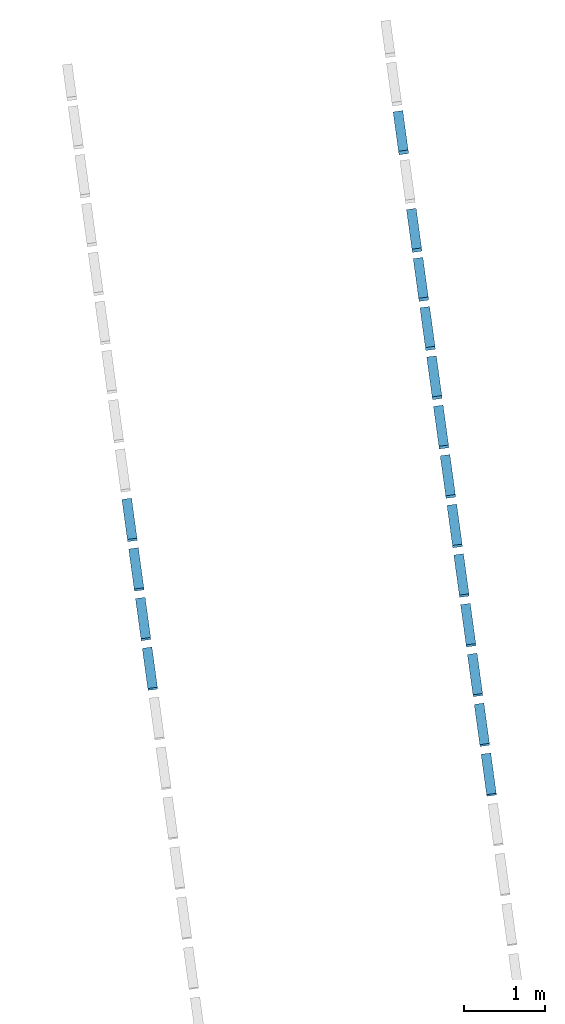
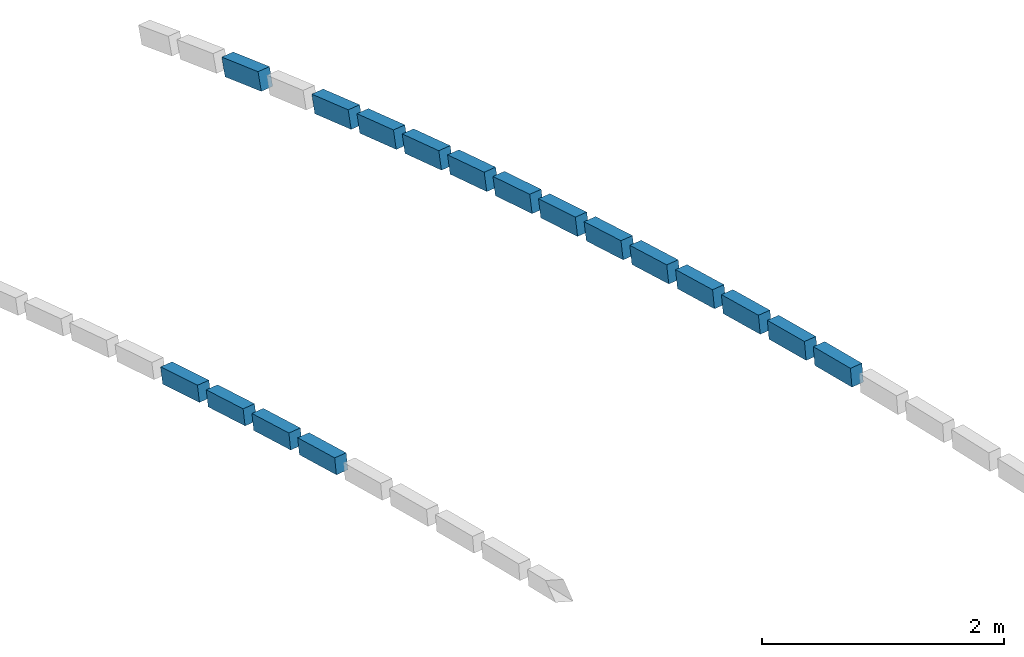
# One storey, part 5 of 6: 17 beams.
"""IFC2X3 building model written with IfcOpenShell, lengths in metres."""

from ifc_helpers import new_model, entity, si_unit, converted_unit, derived_unit, money_unit, direction, frame, frame_2d, origin_with_axes, place, context, subcontext, project, spatial, rectangle, extrude, boolean, faceted_brep, material, type_object, element, save


model = new_model("IFC2X3")

# Units and contexts
model_context = context("Model", 3, precision=1e-05, world=origin_with_axes(), true_north=direction((0.0, 1.0)))
body_context = subcontext(model_context, "Body", "Model", "MODEL_VIEW")
ifc_project = project(units=[si_unit("LENGTHUNIT", "METRE"), si_unit("AREAUNIT", "SQUARE_METRE"), si_unit("VOLUMEUNIT", "CUBIC_METRE"), converted_unit("PLANEANGLEUNIT", "DEGREE", entity("IfcPlaneAngleMeasure", 0.0174532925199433), si_unit("PLANEANGLEUNIT", "RADIAN"), dimensions=[0, 0, 0, 0, 0, 0, 0]), money_unit("EUR"), converted_unit("TIMEUNIT", "Year", entity("IfcTimeMeasure", 31557600.0), si_unit("TIMEUNIT", "SECOND"), dimensions=[0, 0, 1, 0, 0, 0, 0]), si_unit("MASSUNIT", "GRAM", prefix="KILO"), si_unit("THERMODYNAMICTEMPERATUREUNIT", "DEGREE_CELSIUS"), si_unit("LUMINOUSINTENSITYUNIT", "LUMEN"), si_unit("ENERGYUNIT", "JOULE", prefix="MEGA"), derived_unit("THERMALCONDUCTANCEUNIT", [(si_unit("POWERUNIT", "WATT"), 1), (si_unit("LENGTHUNIT", "METRE"), -1), (si_unit("THERMODYNAMICTEMPERATUREUNIT", "KELVIN"), -1)]), derived_unit("SPECIFICHEATCAPACITYUNIT", [(si_unit("ENERGYUNIT", "JOULE"), 1), (si_unit("MASSUNIT", "GRAM", prefix="KILO"), -1), (si_unit("THERMODYNAMICTEMPERATUREUNIT", "KELVIN"), -1)]), derived_unit("MASSDENSITYUNIT", [(si_unit("MASSUNIT", "GRAM", prefix="KILO"), 1), (si_unit("VOLUMEUNIT", "CUBIC_METRE"), -1)])], contexts=[model_context])

# Site, building, storey
site_placement = place(None, origin_with_axes())
site = spatial("IfcSite", under=ifc_project, at=site_placement, Name="Gelände", CompositionType="ELEMENT")
building_placement = place(site_placement, origin_with_axes())
building = spatial("IfcBuilding", under=site, at=building_placement, Name="Gebäude", CompositionType="ELEMENT")
storey_placement = place(building_placement, frame((0.0, 0.0, 9.9), z_axis=(0.0, 0.0, 1.0), x_axis=(1.0, 0.0, 0.0)))
storey = spatial("IfcBuildingStorey", under=building, at=storey_placement, Name="Dach", CompositionType="ELEMENT", Elevation=9.9)

# Beams
ifc_material = material(Name="Bauholz")
beam_type_1 = type_object("IfcBeamType", Name="Bauholz 120 x 160", PredefinedType="NOTDEFINED")
beam_1_placement = place(storey_placement, frame((108.7187904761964, -139.6317699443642, -0.30022244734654), z_axis=(0.0, 0.0, 1.0), x_axis=(-0.9907490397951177, -0.1357068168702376, 0.0)))
element("IfcBeam", 1, at=beam_1_placement, inside=storey, type_object=beam_type_1, material=ifc_material, Name="Unterzug-031", context=body_context, shape_type="CSG", body=[
    boolean("DIFFERENCE", boolean("DIFFERENCE", extrude(rectangle(XDim=0.16, YDim=0.12, at=frame_2d((-0.08, 0.0), x_axis=(1.0, 0.0))), frame((0.0, 0.0, 0.0), z_axis=(0.0, 0.9863033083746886, 0.1649417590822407), x_axis=(0.0, -0.1649417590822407, 0.9863033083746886)), (0.0, 0.0, 1.0), 0.5052459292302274), faceted_brep([(-0.0600000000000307, 0.0, 0.0), (-0.06000000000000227, 0.02681892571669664, -0.1577369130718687), (-0.06000000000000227, 0.02639068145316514, -0.1578085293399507), (0.06000000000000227, 0.02681892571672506, -0.1577369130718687), (0.06000000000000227, 0.0, 0.0), (0.06000000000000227, 0.02639068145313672, -0.1578085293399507)], [[[0, 1, 2]], [[3, 1, 0, 4]], [[1, 3, 5, 2]], [[4, 0, 2, 5]], [[3, 4, 5]]])), faceted_brep([(0.05999999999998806, 0.5245838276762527, -0.07449454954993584), (-0.06000000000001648, 0.5245838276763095, -0.07449454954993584), (-0.06000000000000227, 0.5247164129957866, -0.07447237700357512), (0.06000000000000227, 0.5247164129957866, -0.07447237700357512), (-0.0600000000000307, 0.4983257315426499, 0.08333615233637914), (0.05999999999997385, 0.4983257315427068, 0.08333615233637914)], [[[0, 1, 2, 3]], [[4, 1, 0, 5]], [[1, 4, 2]], [[4, 5, 3, 2]], [[5, 0, 3]]])),
])
beam_2_placement = place(storey_placement, frame((108.8024960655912, -140.2428557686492, -0.1977625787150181), z_axis=(0.0, 0.0, 1.0), x_axis=(-0.9907490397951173, -0.1357068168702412, 0.0)))
element("IfcBeam", 2, at=beam_2_placement, inside=storey, type_object=beam_type_1, material=ifc_material, Name="Unterzug-031", context=body_context, shape_type="CSG", body=[
    boolean("DIFFERENCE", boolean("DIFFERENCE", extrude(rectangle(XDim=0.16, YDim=0.12, at=frame_2d((-0.08, 0.0), x_axis=(1.0, 0.0))), frame((0.0, 0.0, 0.0), z_axis=(0.0, 0.9879144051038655, 0.1550004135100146), x_axis=(0.0, -0.1550004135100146, 0.9879144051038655)), (0.0, 0.0, 1.0), 0.505241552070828), faceted_brep([(-0.05999999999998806, 0.0, 0.0), (-0.06000000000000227, 0.02522900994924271, -0.1579990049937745), (-0.05999999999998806, 0.02480006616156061, -0.1580663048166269), (0.06000000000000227, 0.02522900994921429, -0.1579990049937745), (0.06000000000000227, 0.0, 0.0), (0.06000000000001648, 0.02480006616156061, -0.1580663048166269)], [[[0, 1, 2]], [[3, 1, 0, 4]], [[1, 3, 5, 2]], [[4, 0, 2, 5]], [[3, 4, 5]]])), faceted_brep([(0.06000000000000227, 0.5238026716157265, -0.0797744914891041), (-0.05999999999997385, 0.523802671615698, -0.0797744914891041), (-0.05999999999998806, 0.52393547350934, -0.07975365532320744), (0.06000000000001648, 0.5239354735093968, -0.07975365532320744), (-0.06000000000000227, 0.499135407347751, 0.07831264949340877), (0.06000000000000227, 0.4991354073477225, 0.07831264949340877)], [[[0, 1, 2, 3]], [[4, 1, 0, 5]], [[1, 4, 2]], [[4, 5, 3, 2]], [[5, 0, 3]]])),
])
beam_3_placement = place(storey_placement, frame((108.6352321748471, -139.0217593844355, -0.4089660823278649), z_axis=(0.0, 0.0, 1.0), x_axis=(-0.9907490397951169, -0.1357068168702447, 0.0)))
element("IfcBeam", 3, at=beam_3_placement, inside=storey, type_object=beam_type_1, material=ifc_material, Name="Unterzug-031", context=body_context, shape_type="CSG", body=[
    boolean("DIFFERENCE", boolean("DIFFERENCE", extrude(rectangle(XDim=0.16, YDim=0.12, at=frame_2d((-0.08, 0.0), x_axis=(1.0, 0.0))), frame((0.0, 0.0, 0.0), z_axis=(0.0, 0.9845708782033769, 0.1749862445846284), x_axis=(0.0, -0.1749862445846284, 0.9845708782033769)), (0.0, 0.0, 1.0), 0.5052375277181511), faceted_brep([(-0.06000000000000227, 0.0, 0.0), (-0.06000000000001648, 0.02849469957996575, -0.1574430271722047), (-0.06000000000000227, 0.02799779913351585, -0.1575313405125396), (0.06000000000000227, 0.02849469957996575, -0.1574430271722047), (0.06000000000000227, 0.0, 0.0), (0.06000000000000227, 0.02799779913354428, -0.1575313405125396)], [[[0, 1, 2]], [[3, 1, 0, 4]], [[1, 3, 5, 2]], [[4, 0, 2, 5]], [[3, 4, 5]]])), faceted_brep([(0.06000000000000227, 0.525307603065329, -0.06914524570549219), (-0.06000000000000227, 0.525307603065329, -0.06914524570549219), (-0.06000000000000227, 0.5254399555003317, -0.06912172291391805), (0.06000000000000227, 0.5254399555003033, -0.06912172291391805), (-0.0600000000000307, 0.4974421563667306, 0.08840961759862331), (0.05999999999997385, 0.4974421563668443, 0.08840961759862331)], [[[0, 1, 2, 3]], [[4, 1, 0, 5]], [[1, 4, 2]], [[4, 5, 3, 2]], [[5, 0, 3]]])),
])
beam_4_placement = place(storey_placement, frame((108.8863389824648, -140.8549441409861, -0.1016241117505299), z_axis=(0.0, 0.0, 1.0), x_axis=(-0.9907490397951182, -0.1357068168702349, 0.0)))
element("IfcBeam", 4, at=beam_4_placement, inside=storey, type_object=beam_type_1, material=ifc_material, Name="Unterzug-031", context=body_context, shape_type="CSG", body=[
    boolean("DIFFERENCE", boolean("DIFFERENCE", extrude(rectangle(XDim=0.16, YDim=0.12, at=frame_2d((-0.08, 0.0), x_axis=(1.0, 0.0))), frame((0.0, 0.0, 0.0), z_axis=(0.0, 0.9894162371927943, 0.1451051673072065), x_axis=(0.0, -0.1451051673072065, 0.9894162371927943)), (0.0, 0.0, 1.0), 0.5052237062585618), faceted_brep([(-0.06000000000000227, 0.0, 0.0), (-0.06000000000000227, 0.02364642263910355, -0.1582435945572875), (-0.06000000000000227, 0.02321682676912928, -0.1583065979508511), (0.06000000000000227, 0.02364642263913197, -0.1582435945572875), (0.06000000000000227, 0.0, 0.0), (0.06000000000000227, 0.02321682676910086, -0.1583065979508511)], [[[0, 1, 2]], [[3, 1, 0, 4]], [[1, 3, 5, 2]], [[4, 0, 2, 5]], [[3, 4, 5]]])), faceted_brep([(0.05999999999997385, 0.5229603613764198, -0.08501553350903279), (-0.05999999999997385, 0.5229603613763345, -0.08501553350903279), (-0.05999999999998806, 0.5230933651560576, -0.08499602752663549), (0.06000000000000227, 0.5230933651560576, -0.08499602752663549), (-0.05999999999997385, 0.4998765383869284, 0.07331057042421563), (0.0600000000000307, 0.4998765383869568, 0.07331057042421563)], [[[0, 1, 2, 3]], [[4, 1, 0, 5]], [[1, 4, 2]], [[4, 5, 3, 2]], [[5, 0, 3]]])),
])
beam_type_2 = type_object("IfcBeamType", Name="Bauholz 120 x 180", PredefinedType="NOTDEFINED")
beam_5_placement = place(storey_placement, frame((113.1205002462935, -142.1727884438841, -0.02927427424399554), z_axis=(0.0, 0.0, 1.0), x_axis=(-0.9907490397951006, -0.1357068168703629, 0.0)))
element("IfcBeam", 5, at=beam_5_placement, inside=storey, type_object=beam_type_2, material=ifc_material, Name="Unterzug-031", context=body_context, shape_type="CSG", body=[
    boolean("DIFFERENCE", boolean("DIFFERENCE", extrude(rectangle(XDim=0.18, YDim=0.12, at=frame_2d((0.09, 0.06), x_axis=(1.0, 0.0))), frame((0.0, -0.0006440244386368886, -7.45167679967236e-05), z_axis=(0.0, 0.9933726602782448, 0.1149380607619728), x_axis=(0.0, -0.1149380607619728, 0.9933726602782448)), (0.0, 0.0, 1.0), 0.5047604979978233), faceted_brep([(0.0, -0.02131300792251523, 0.1787348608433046), (0.0, 0.0, 0.0), (0.0, -0.0006440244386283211, -7.451676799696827e-05), (0.0, -0.02133287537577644, 0.1787325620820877), (0.1199999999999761, 0.0, 0.0), (0.1199999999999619, -0.02131300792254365, 0.1787348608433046), (0.1199999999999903, -0.0006440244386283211, -7.451676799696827e-05), (0.1199999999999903, -0.02133287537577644, 0.1787325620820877)], [[[0, 1, 2, 3]], [[4, 1, 0, 5]], [[1, 4, 6, 2]], [[2, 6, 7, 3]], [[5, 0, 3, 7]], [[4, 5, 7, 6]]])), faceted_brep([(0.1199999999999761, 0.5001272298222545, 0.05786715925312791), (0.0, 0.5001272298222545, 0.05786715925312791), (0.0, 0.5007712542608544, 0.05794167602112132), (0.1199999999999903, 0.5007712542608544, 0.05794167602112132), (0.0, 0.480062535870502, 0.2367464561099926), (0.1199999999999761, 0.480062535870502, 0.2367464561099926), (0.0, 0.4800824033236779, 0.2367487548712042), (0.1199999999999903, 0.4800824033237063, 0.2367487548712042)], [[[0, 1, 2, 3]], [[4, 1, 0, 5]], [[1, 4, 6, 2]], [[7, 3, 2, 6]], [[5, 0, 3, 7]], [[4, 5, 7, 6]]])),
])
beam_6_placement = place(storey_placement, frame((113.0365603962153, -141.5599522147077, -0.1064527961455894), z_axis=(0.0, 0.0, 1.0), x_axis=(-0.9907490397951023, -0.1357068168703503, 0.0)))
element("IfcBeam", 6, at=beam_6_placement, inside=storey, type_object=beam_type_2, material=ifc_material, Name="Unterzug-031", context=body_context, shape_type="CSG", body=[
    boolean("DIFFERENCE", boolean("DIFFERENCE", extrude(rectangle(XDim=0.18, YDim=0.12, at=frame_2d((0.09, 0.06), x_axis=(1.0, 0.0))), frame((0.0, -0.0006432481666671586, -8.094456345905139e-05), z_axis=(0.0, 0.9921753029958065, 0.1248525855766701), x_axis=(0.0, -0.1248525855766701, 0.9921753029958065)), (0.0, 0.0, 1.0), 0.5049666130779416), faceted_brep([(0.0, -0.02309687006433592, 0.1785131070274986), (0.0, 0.0, 0.0), (0.0, -0.0006432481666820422, -8.09445634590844e-05), (0.0, -0.02311671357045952, 0.1785106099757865), (0.1200000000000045, 0.0, 0.0), (0.1199999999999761, -0.02309687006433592, 0.1785131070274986), (0.1200000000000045, -0.0006432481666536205, -8.09445634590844e-05), (0.1200000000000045, -0.02311671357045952, 0.1785106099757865)], [[[0, 1, 2, 3]], [[4, 1, 0, 5]], [[1, 4, 6, 2]], [[2, 6, 7, 3]], [[5, 0, 3, 7]], [[4, 5, 7, 6]]])), faceted_brep([(0.1199999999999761, 0.4994171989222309, 0.06284527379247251), (0.0, 0.4994171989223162, 0.06284527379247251), (0.0, 0.5003721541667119, 0.06296544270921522), (0.1199999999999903, 0.5003721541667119, 0.06296544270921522), (0.0, 0.4778788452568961, 0.2415545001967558), (0.1200000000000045, 0.4778788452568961, 0.2415545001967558), (0.0, 0.4778986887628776, 0.2415569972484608), (0.1200000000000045, 0.4778986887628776, 0.2415569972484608)], [[[0, 1, 2, 3]], [[4, 1, 0, 5]], [[1, 4, 6, 2]], [[7, 3, 2, 6]], [[5, 0, 3, 7]], [[4, 5, 7, 6]]])),
])
beam_7_placement = place(storey_placement, frame((112.9527059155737, -140.947739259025, -0.1898359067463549), z_axis=(0.0, 0.0, 1.0), x_axis=(-0.9907490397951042, -0.1357068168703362, 0.0)))
element("IfcBeam", 7, at=beam_7_placement, inside=storey, type_object=beam_type_2, material=ifc_material, Name="Unterzug-031", context=body_context, shape_type="CSG", body=[
    boolean("DIFFERENCE", boolean("DIFFERENCE", extrude(rectangle(XDim=0.18, YDim=0.12, at=frame_2d((0.09, 0.06), x_axis=(1.0, 0.0))), frame((0.0, -0.000642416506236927, -8.7299821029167e-05), z_axis=(0.0, 0.9908925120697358, 0.1346552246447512), x_axis=(0.0, -0.1346552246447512, 0.9908925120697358)), (0.0, 0.0, 1.0), 0.5048272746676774), faceted_brep([(0.0, -0.02486053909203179, 0.1782760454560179), (0.0, 0.0, 0.0), (0.0, -0.0006424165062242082, -8.72998210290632e-05), (0.0, -0.02488035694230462, 0.178273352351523), (0.1200000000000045, 0.0, 0.0), (0.1199999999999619, -0.02486053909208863, 0.1782760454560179), (0.1199999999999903, -0.0006424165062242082, -8.72998210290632e-05), (0.1199999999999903, -0.02488035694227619, 0.178273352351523)], [[[0, 1, 2, 3]], [[4, 1, 0, 5]], [[1, 4, 6, 2]], [[2, 6, 7, 3]], [[5, 0, 3, 7]], [[4, 5, 7, 6]]])), faceted_brep([(0.1199999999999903, 0.498944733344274, 0.06780303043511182), (0.0, 0.498944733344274, 0.06780303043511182), (0.0, 0.4995871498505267, 0.06789033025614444), (0.1199999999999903, 0.4995871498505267, 0.06789033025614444), (0.0, 0.4753293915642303, 0.2462482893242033), (0.1199999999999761, 0.4753293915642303, 0.2462482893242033), (0.0, 0.4753492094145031, 0.2462509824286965), (0.1200000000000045, 0.4753492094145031, 0.2462509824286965)], [[[0, 1, 2, 3]], [[4, 1, 0, 5]], [[1, 4, 6, 2]], [[7, 3, 2, 6]], [[5, 0, 3, 7]], [[4, 5, 7, 6]]])),
])
beam_8_placement = place(storey_placement, frame((112.8689708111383, -140.3363978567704, -0.2796270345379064), z_axis=(0.0, 0.0, 1.0), x_axis=(-0.9907490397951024, -0.1357068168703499, 0.0)))
element("IfcBeam", 8, at=beam_8_placement, inside=storey, type_object=beam_type_2, material=ifc_material, Name="Unterzug-031", context=body_context, shape_type="CSG", body=[
    boolean("DIFFERENCE", boolean("DIFFERENCE", extrude(rectangle(XDim=0.18, YDim=0.12, at=frame_2d((0.09, 0.06), x_axis=(1.0, 0.0))), frame((0.0, -0.0006414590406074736, -9.407723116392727e-05), z_axis=(0.0, 0.9894156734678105, 0.1451090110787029), x_axis=(0.0, -0.1451090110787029, 0.9894156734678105)), (0.0, 0.0, 1.0), 0.5048464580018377), faceted_brep([(0.0, -0.02674129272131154, 0.178003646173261), (0.0, 0.0, 0.0), (0.0, -0.0006414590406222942, -9.407723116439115e-05), (0.0, -0.02676108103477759, 0.1780007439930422), (0.1199999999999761, 0.0, 0.0), (0.1199999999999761, -0.02674129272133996, 0.178003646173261), (0.1200000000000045, -0.0006414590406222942, -9.407723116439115e-05), (0.1199999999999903, -0.02676108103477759, 0.1780007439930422)], [[[0, 1, 2, 3]], [[4, 1, 0, 5]], [[1, 4, 6, 2]], [[2, 6, 7, 3]], [[5, 0, 3, 7]], [[4, 5, 7, 6]]])), faceted_brep([(0.1200000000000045, 0.4982200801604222, 0.07306961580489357), (0.0, 0.4982200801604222, 0.07306961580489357), (0.0, 0.4988615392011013, 0.07316369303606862), (0.1199999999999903, 0.4988615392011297, 0.07316369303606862), (0.0, 0.4727221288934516, 0.2512556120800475), (0.1200000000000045, 0.4727221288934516, 0.2512556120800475), (0.0, 0.4727419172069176, 0.2512585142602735), (0.1199999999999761, 0.4727419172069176, 0.2512585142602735)], [[[0, 1, 2, 3]], [[4, 1, 0, 5]], [[1, 4, 6, 2]], [[7, 3, 2, 6]], [[5, 0, 3, 7]], [[4, 5, 7, 6]]])),
])
beam_9_placement = place(storey_placement, frame((112.785397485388, -139.7262375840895, -0.375462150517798), z_axis=(0.0, 0.0, 1.0), x_axis=(-0.9907490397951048, -0.1357068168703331, 0.0)))
element("IfcBeam", 9, at=beam_9_placement, inside=storey, type_object=beam_type_2, material=ifc_material, Name="Unterzug-031", context=body_context, shape_type="CSG", body=[
    boolean("DIFFERENCE", boolean("DIFFERENCE", extrude(rectangle(XDim=0.18, YDim=0.12, at=frame_2d((0.09, 0.06), x_axis=(1.0, 0.0))), frame((0.0, -0.0006404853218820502, -0.0001004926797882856), z_axis=(0.0, 0.9879137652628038, 0.1550044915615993), x_axis=(0.0, -0.1550044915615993, 0.9879137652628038)), (0.0, 0.0, 1.0), 0.5045678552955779), faceted_brep([(0.0, -0.02852153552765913, 0.1777270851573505), (0.0, 0.0, 0.0), (0.0, -0.0006404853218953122, -0.0001004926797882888), (0.0, -0.02854129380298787, 0.1777239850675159), (0.120000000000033, 0.0, 0.0), (0.120000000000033, -0.02852153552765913, 0.1777270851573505), (0.1200000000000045, -0.0006404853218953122, -0.0001004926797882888), (0.1200000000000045, -0.02854129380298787, 0.1777239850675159)], [[[0, 1, 2, 3]], [[4, 1, 0, 5]], [[1, 4, 6, 2]], [[2, 6, 7, 3]], [[5, 0, 3, 7]], [[4, 5, 7, 6]]])), faceted_brep([(0.1200000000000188, 0.4971885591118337, 0.07800929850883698), (0.0, 0.4971885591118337, 0.07800929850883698), (0.0, 0.4978290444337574, 0.07810979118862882), (0.1200000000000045, 0.4978290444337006, 0.07810979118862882), (0.0, 0.4699084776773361, 0.2559311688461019), (0.120000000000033, 0.4699084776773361, 0.2559311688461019), (0.0, 0.4699282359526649, 0.2559342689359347), (0.1200000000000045, 0.4699282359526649, 0.2559342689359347)], [[[0, 1, 2, 3]], [[4, 1, 0, 5]], [[1, 4, 6, 2]], [[7, 3, 2, 6]], [[5, 0, 3, 7]], [[4, 5, 7, 6]]])),
])
beam_10_placement = place(storey_placement, frame((112.7019436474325, -139.1169496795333, -0.4776194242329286), z_axis=(0.0, 0.0, 1.0), x_axis=(-0.9907490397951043, -0.135706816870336, 0.0)))
element("IfcBeam", 10, at=beam_10_placement, inside=storey, type_object=beam_type_2, material=ifc_material, Name="Unterzug-031", context=body_context, shape_type="CSG", body=[
    boolean("DIFFERENCE", boolean("DIFFERENCE", extrude(rectangle(XDim=0.18, YDim=0.12, at=frame_2d((0.09, 0.06), x_axis=(1.0, 0.0))), frame((0.0, -0.0006394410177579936, -0.0001069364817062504), z_axis=(0.0, 0.9863029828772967, 0.164943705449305), x_axis=(0.0, -0.164943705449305, 0.9863029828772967)), (0.0, 0.0, 1.0), 0.5047020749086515), faceted_brep([(0.0, -0.03030958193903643, 0.177430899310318), (0.0, 0.0, 0.0), (0.0, -0.0006394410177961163, -0.0001069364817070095), (0.0, -0.0303293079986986, 0.1774276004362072), (0.1199999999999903, 0.0, 0.0), (0.1199999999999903, -0.03030958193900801, 0.177430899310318), (0.1200000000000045, -0.0006394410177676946, -0.0001069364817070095), (0.1199999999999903, -0.03032930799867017, 0.1774276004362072)], [[[0, 1, 2, 3]], [[4, 1, 0, 5]], [[1, 4, 6, 2]], [[2, 6, 7, 3]], [[5, 0, 3, 7]], [[4, 5, 7, 6]]])), faceted_brep([(0.1199999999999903, 0.4965102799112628, 0.08303355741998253), (0.0, 0.4965102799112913, 0.08303355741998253), (0.0, 0.4971497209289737, 0.08314049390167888), (0.1199999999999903, 0.4971497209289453, 0.08314049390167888), (0.0, 0.4674401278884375, 0.2606717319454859), (0.1200000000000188, 0.4674401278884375, 0.2606717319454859), (0.0, 0.4674598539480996, 0.2606750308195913), (0.1200000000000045, 0.4674598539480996, 0.2606750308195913)], [[[0, 1, 2, 3]], [[4, 1, 0, 5]], [[1, 4, 6, 2]], [[7, 3, 2, 6]], [[5, 0, 3, 7]], [[4, 5, 7, 6]]])),
])
beam_11_placement = place(storey_placement, frame((112.5354997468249, -137.9017598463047, -0.700651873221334), z_axis=(0.0, 0.0, 1.0), x_axis=(-0.9907490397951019, -0.1357068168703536, 0.0)))
element("IfcBeam", 11, at=beam_11_placement, inside=storey, type_object=beam_type_2, material=ifc_material, Name="Unterzug-031", context=body_context, shape_type="CSG", body=[
    boolean("DIFFERENCE", boolean("DIFFERENCE", extrude(rectangle(XDim=0.18, YDim=0.12, at=frame_2d((0.09, 0.06), x_axis=(1.0, 0.0))), frame((0.0, -0.0006371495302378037, -0.0001198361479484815), z_axis=(0.0, 0.9827684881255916, 0.1848407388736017), x_axis=(0.0, -0.1848407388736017, 0.9827684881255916)), (0.0, 0.0, 1.0), 0.5046320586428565), faceted_brep([(0.0, -0.03388882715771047, 0.1767821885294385), (0.0, 0.0, 0.0), (0.0, -0.0006371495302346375, -0.0001198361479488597), (0.0, -0.03390848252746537, 0.1767784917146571), (0.1200000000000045, 0.0, 0.0), (0.1200000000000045, -0.03388882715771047, 0.1767821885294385), (0.1200000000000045, -0.0006371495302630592, -0.0001198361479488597), (0.1199999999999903, -0.03390848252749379, 0.1767784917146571)], [[[0, 1, 2, 3]], [[4, 1, 0, 5]], [[1, 4, 6, 2]], [[2, 6, 7, 3]], [[5, 0, 3, 7]], [[4, 5, 7, 6]]])), faceted_brep([(0.1200000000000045, 0.494662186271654, 0.09303689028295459), (0.0, 0.494662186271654, 0.09303689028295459), (0.0, 0.4952993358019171, 0.09315672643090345), (0.1200000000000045, 0.4952993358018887, 0.09315672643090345), (0.0, 0.4620083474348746, 0.2700513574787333), (0.1199999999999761, 0.462008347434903, 0.2700513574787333), (0.0, 0.4620280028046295, 0.2700550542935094), (0.1199999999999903, 0.4620280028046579, 0.2700550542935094)], [[[0, 1, 2, 3]], [[4, 1, 0, 5]], [[1, 4, 6, 2]], [[7, 3, 2, 6]], [[5, 0, 3, 7]], [[4, 5, 7, 6]]])),
])
beam_12_placement = place(storey_placement, frame((112.4525120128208, -137.2958749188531, -0.8213280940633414), z_axis=(0.0, 0.0, 1.0), x_axis=(-0.9907490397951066, -0.1357068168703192, 0.0)))
element("IfcBeam", 12, at=beam_12_placement, inside=storey, type_object=beam_type_2, material=ifc_material, Name="Unterzug-031", context=body_context, shape_type="CSG", body=[
    boolean("DIFFERENCE", boolean("DIFFERENCE", extrude(rectangle(XDim=0.18, YDim=0.12, at=frame_2d((0.09, 0.06), x_axis=(1.0, 0.0))), frame((0.0, -0.0006359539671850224, -0.0001260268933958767), z_axis=(0.0, 0.9809243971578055, 0.1943896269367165), x_axis=(0.0, -0.1943896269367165, 0.9809243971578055)), (0.0, 0.0, 1.0), 0.5046322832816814), faceted_brep([(0.0, -0.03560646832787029, 0.1764442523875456), (0.0, 0.0, 0.0), (0.0, -0.0006359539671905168, -0.0001260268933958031), (0.0, -0.03562608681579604, 0.1764403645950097), (0.1200000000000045, 0.0, 0.0), (0.1200000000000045, -0.03560646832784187, 0.1764442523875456), (0.1200000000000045, -0.0006359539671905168, -0.0001260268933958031), (0.1200000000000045, -0.03562608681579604, 0.1764403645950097)], [[[0, 1, 2, 3]], [[4, 1, 0, 5]], [[1, 4, 6, 2]], [[2, 6, 7, 3]], [[5, 0, 3, 7]], [[4, 5, 7, 6]]])), faceted_brep([(0.1200000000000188, 0.493734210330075, 0.0978432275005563), (0.0, 0.493734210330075, 0.0978432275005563), (0.0, 0.494370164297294, 0.09796925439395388), (0.1200000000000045, 0.494370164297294, 0.09796925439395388), (0.0, 0.4593604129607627, 0.2745317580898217), (0.1200000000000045, 0.4593604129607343, 0.2745317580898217), (0.0, 0.45938003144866, 0.2745356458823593), (0.1200000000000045, 0.4593800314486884, 0.2745356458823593)], [[[0, 1, 2, 3]], [[4, 1, 0, 5]], [[1, 4, 6, 2]], [[7, 3, 2, 6]], [[5, 0, 3, 7]], [[4, 5, 7, 6]]])),
])
beam_13_placement = place(storey_placement, frame((112.3696998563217, -136.691271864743, -0.9483826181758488), z_axis=(0.0, 0.0, 1.0), x_axis=(-0.9907490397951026, -0.1357068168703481, 0.0)))
element("IfcBeam", 13, at=beam_13_placement, inside=storey, type_object=beam_type_2, material=ifc_material, Name="Unterzug-031", context=body_context, shape_type="CSG", body=[
    boolean("DIFFERENCE", boolean("DIFFERENCE", extrude(rectangle(XDim=0.18, YDim=0.12, at=frame_2d((0.09, 0.06), x_axis=(1.0, 0.0))), frame((0.0, -0.0006346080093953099, -0.0001326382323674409), z_axis=(0.0, 0.9788483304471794, 0.2045872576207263), x_axis=(0.0, -0.2045872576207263, 0.9788483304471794)), (0.0, 0.0, 1.0), 0.5046316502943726), faceted_brep([(0.0, -0.0374407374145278, 0.1760641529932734), (0.0, 0.0, 0.0), (0.0, -0.0006346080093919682, -0.0001326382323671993), (0.0, -0.03746031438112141, 0.1760600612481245), (0.1200000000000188, 0.0, 0.0), (0.1200000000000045, -0.0374407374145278, 0.1760641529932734), (0.1200000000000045, -0.0006346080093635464, -0.0001326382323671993), (0.1200000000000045, -0.03746031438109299, 0.1760600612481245)], [[[0, 1, 2, 3]], [[4, 1, 0, 5]], [[1, 4, 6, 2]], [[2, 6, 7, 3]], [[5, 0, 3, 7]], [[4, 5, 7, 6]]])), faceted_brep([(0.1200000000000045, 0.4926886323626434, 0.1029759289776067), (0.0, 0.4926886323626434, 0.1029759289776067), (0.0, 0.4933232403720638, 0.1031085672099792), (0.1200000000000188, 0.4933232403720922, 0.1031085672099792), (0.0, 0.4564779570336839, 0.2792971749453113), (0.1199999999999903, 0.4564779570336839, 0.2792971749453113), (0.0, 0.4564975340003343, 0.2793012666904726), (0.1199999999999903, 0.4564975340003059, 0.2793012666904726)], [[[0, 1, 2, 3]], [[4, 1, 0, 5]], [[1, 4, 6, 2]], [[7, 3, 2, 6]], [[5, 0, 3, 7]], [[4, 5, 7, 6]]])),
])
beam_14_placement = place(storey_placement, frame((112.6186453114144, -138.5087970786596, -0.5860302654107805), z_axis=(0.0, 0.0, 1.0), x_axis=(-0.9907490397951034, -0.1357068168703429, 0.0)))
element("IfcBeam", 14, at=beam_14_placement, inside=storey, type_object=beam_type_2, material=ifc_material, Name="Unterzug-031", context=body_context, shape_type="CSG", body=[
    boolean("DIFFERENCE", boolean("DIFFERENCE", extrude(rectangle(XDim=0.18, YDim=0.12, at=frame_2d((0.09, 0.06), x_axis=(1.0, 0.0))), frame((0.0, -0.0006383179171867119, -0.0001134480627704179), z_axis=(0.0, 0.9845706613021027, 0.1749874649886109), x_axis=(0.0, -0.1749874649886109, 0.9845706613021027)), (0.0, 0.0, 1.0), 0.5046288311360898), faceted_brep([(0.0, -0.03211637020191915, 0.1771127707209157), (0.0, 0.0, 0.0), (0.0, -0.000638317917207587, -0.0001134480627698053), (0.0, -0.03213606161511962, 0.1771092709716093), (0.1199999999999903, 0.0, 0.0), (0.1199999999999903, -0.03211637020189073, 0.1771127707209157), (0.1199999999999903, -0.000638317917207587, -0.0001134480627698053), (0.1199999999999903, -0.03213606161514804, 0.1771092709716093)], [[[0, 1, 2, 3]], [[4, 1, 0, 5]], [[1, 4, 6, 2]], [[2, 6, 7, 3]], [[5, 0, 3, 7]], [[4, 5, 7, 6]]])), faceted_brep([(0.1199999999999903, 0.495566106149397, 0.08807682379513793), (0.0, 0.4955661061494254, 0.08807682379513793), (0.0, 0.4962044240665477, 0.08819027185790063), (0.1199999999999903, 0.4962044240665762, 0.08819027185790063), (0.0, 0.4646869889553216, 0.2654094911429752), (0.1200000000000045, 0.4646869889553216, 0.2654094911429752), (0.0, 0.4647066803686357, 0.265412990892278), (0.1199999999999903, 0.4647066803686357, 0.265412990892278)], [[[0, 1, 2, 3]], [[4, 1, 0, 5]], [[1, 4, 6, 2]], [[7, 3, 2, 6]], [[5, 0, 3, 7]], [[4, 5, 7, 6]]])),
])
beam_15_placement = place(storey_placement, frame((112.2870635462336, -136.0879526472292, -1.081509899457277), z_axis=(0.0, 0.0, 1.0), x_axis=(-0.9907490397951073, -0.1357068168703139, 0.0)))
element("IfcBeam", 15, at=beam_15_placement, inside=storey, type_object=beam_type_2, material=ifc_material, Name="Unterzug-031", context=body_context, shape_type="CSG", body=[
    boolean("DIFFERENCE", boolean("DIFFERENCE", extrude(rectangle(XDim=0.18, YDim=0.12, at=frame_2d((0.09, 0.06), x_axis=(1.0, 0.0))), frame((0.0, -0.0006332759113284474, -0.0001388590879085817), z_axis=(0.0, 0.976793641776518, 0.2141825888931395), x_axis=(0.0, -0.2141825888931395, 0.976793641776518)), (0.0, 0.0, 1.0), 0.5043173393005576), faceted_brep([(0.0, -0.0391666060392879, 0.175688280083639), (0.0, 0.0, 0.0), (0.0, -0.0006332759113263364, -0.0001388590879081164), (0.0, -0.03918614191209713, 0.1756839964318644), (0.1199999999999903, 0.0, 0.0), (0.1199999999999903, -0.0391666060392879, 0.175688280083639), (0.1199999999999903, -0.0006332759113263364, -0.0001388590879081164), (0.1200000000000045, -0.03918614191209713, 0.1756839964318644)], [[[0, 1, 2, 3]], [[4, 1, 0, 5]], [[1, 4, 6, 2]], [[2, 6, 7, 3]], [[5, 0, 3, 7]], [[4, 5, 7, 6]]])), faceted_brep([(0.1200000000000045, 0.4916542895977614, 0.1078055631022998), (0.0, 0.4916542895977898, 0.1078055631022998), (0.0, 0.4919806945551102, 0.107877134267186), (0.1200000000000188, 0.4919806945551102, 0.107877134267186), (0.0, 0.4534082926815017, 0.283695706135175), (0.1200000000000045, 0.4534082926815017, 0.283695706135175), (0.0, 0.4534278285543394, 0.2836999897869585), (0.1200000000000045, 0.4534278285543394, 0.2836999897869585)], [[[0, 1, 2, 3]], [[4, 1, 0, 5]], [[1, 4, 6, 2]], [[7, 3, 2, 6]], [[5, 0, 3, 7]], [[4, 5, 7, 6]]])),
])
beam_16_placement = place(storey_placement, frame((112.2046143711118, -135.4859996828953, -1.220793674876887), z_axis=(0.0, 0.0, 1.0), x_axis=(-0.9907490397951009, -0.1357068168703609, 0.0)))
element("IfcBeam", 16, at=beam_16_placement, inside=storey, type_object=beam_type_2, material=ifc_material, Name="Unterzug-031", context=body_context, shape_type="CSG", body=[
    boolean("DIFFERENCE", boolean("DIFFERENCE", extrude(rectangle(XDim=0.18, YDim=0.12, at=frame_2d((0.09, 0.06), x_axis=(1.0, 0.0))), frame((0.0, -0.000631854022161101, -0.0001451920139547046), z_axis=(0.0, 0.9746004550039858, 0.223950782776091), x_axis=(0.0, -0.223950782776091, 0.9746004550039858)), (0.0, 0.0, 1.0), 0.5043167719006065), faceted_brep([(0.0, -0.04092350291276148, 0.1752873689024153), (0.0, 0.0, 0.0), (0.0, -0.000631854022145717, -0.000145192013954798), (0.0, -0.04094299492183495, 0.1752828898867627), (0.1200000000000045, 0.0, 0.0), (0.1199999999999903, -0.04092350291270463, 0.1752873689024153), (0.1200000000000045, -0.000631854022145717, -0.000145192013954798), (0.1200000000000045, -0.04094299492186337, 0.1752828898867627)], [[[0, 1, 2, 3]], [[4, 1, 0, 5]], [[1, 4, 6, 2]], [[2, 6, 7, 3]], [[5, 0, 3, 7]], [[4, 5, 7, 6]]])), faceted_brep([(0.1199999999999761, 0.4905498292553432, 0.1127221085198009), (0.0, 0.4905498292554, 0.1127221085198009), (0.0, 0.490875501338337, 0.1127969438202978), (0.1200000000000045, 0.490875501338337, 0.1127969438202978), (0.0, 0.4505448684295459, 0.288220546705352), (0.1200000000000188, 0.4505448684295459, 0.288220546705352), (0.0, 0.4505643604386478, 0.2882250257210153), (0.1200000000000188, 0.4505643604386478, 0.2882250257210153)], [[[0, 1, 2, 3]], [[4, 1, 0, 5]], [[1, 4, 6, 2]], [[7, 3, 2, 6]], [[5, 0, 3, 7]], [[4, 5, 7, 6]]])),
])
beam_17_placement = place(storey_placement, frame((112.0403109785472, -134.2864374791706, -1.517773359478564), z_axis=(0.0, 0.0, 1.0), x_axis=(-0.9907490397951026, -0.1357068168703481, 0.0)))
element("IfcBeam", 17, at=beam_17_placement, inside=storey, type_object=beam_type_2, material=ifc_material, Name="Unterzug-031", context=body_context, shape_type="CSG", body=[
    boolean("DIFFERENCE", extrude(rectangle(XDim=0.18, YDim=0.12, at=frame_2d((0.09, 0.06), x_axis=(1.0, 0.0))), frame((0.0, -0.001217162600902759, -0.0003054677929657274), z_axis=(0.0, 0.9699213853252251, 0.2434183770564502), x_axis=(0.0, -0.2434183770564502, 0.9699213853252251)), (0.0, 0.0, 1.0), 0.5045889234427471), faceted_brep([(0.0, -0.04501307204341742, 0.1742852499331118), (0.0, 0.0, 0.0), (0.0, -0.001217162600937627, -0.0003054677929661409), (0.0, -0.04503247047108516, 0.1742803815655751), (0.1200000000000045, 0.0, 0.0), (0.1199999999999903, -0.04501307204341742, 0.1742852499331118), (0.1199999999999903, -0.001217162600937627, -0.0003054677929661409), (0.1199999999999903, -0.04503247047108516, 0.1742803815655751)], [[[0, 1, 2, 3]], [[4, 1, 0, 5]], [[1, 4, 6, 2]], [[2, 6, 7, 3]], [[5, 0, 3, 7]], [[4, 5, 7, 6]]])),
])

save(model, "model.ifc")
